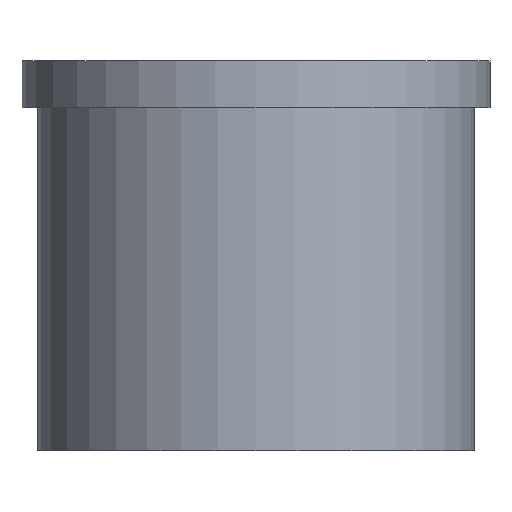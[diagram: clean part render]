
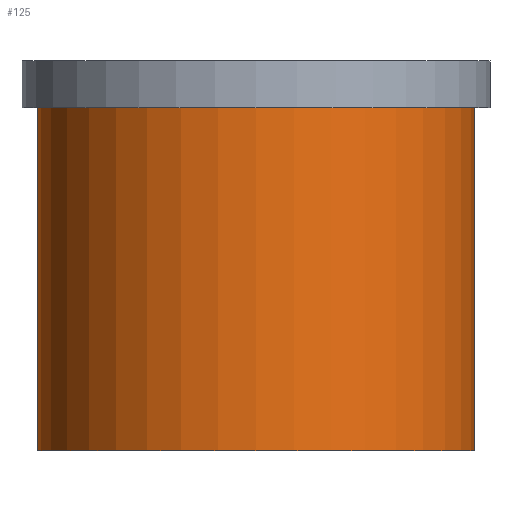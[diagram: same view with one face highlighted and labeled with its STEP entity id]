
A CAD part, left-side view. The second image highlights one B-rep face of the part: STEP entity #125.
In plain terms, the highlighted cylindrical face has radius 14 mm (diameter 28 mm), a partial arc.
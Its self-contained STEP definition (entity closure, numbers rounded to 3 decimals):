
#99=CYLINDRICAL_SURFACE('',#243,14.);
#105=FACE_OUTER_BOUND('',#145,.T.);
#111=LINE('',#324,#117);
#112=LINE('',#328,#118);
#117=VECTOR('',#279,1.);
#118=VECTOR('',#282,1.);
#125=ADVANCED_FACE('',(#105),#99,.T.);
#145=EDGE_LOOP('',(#167,#168,#169,#170));
#167=ORIENTED_EDGE('',*,*,#209,.T.);
#168=ORIENTED_EDGE('',*,*,#210,.F.);
#169=ORIENTED_EDGE('',*,*,#211,.F.);
#170=ORIENTED_EDGE('',*,*,#207,.T.);
#193=VERTEX_POINT('',#320);
#194=VERTEX_POINT('',#321);
#195=VERTEX_POINT('',#325);
#196=VERTEX_POINT('',#327);
#207=EDGE_CURVE('',#193,#194,#223,.T.);
#209=EDGE_CURVE('',#194,#195,#111,.T.);
#210=EDGE_CURVE('',#196,#195,#225,.T.);
#211=EDGE_CURVE('',#193,#196,#112,.T.);
#223=CIRCLE('',#239,14.);
#225=CIRCLE('',#242,14.);
#239=AXIS2_PLACEMENT_3D('',#319,#273,#274);
#242=AXIS2_PLACEMENT_3D('',#326,#280,#281);
#243=AXIS2_PLACEMENT_3D('',#329,#283,#284);
#273=DIRECTION('',(0.,0.,-1.));
#274=DIRECTION('',(1.,0.,0.));
#279=DIRECTION('',(0.,0.,-1.));
#280=DIRECTION('',(0.,0.,-1.));
#281=DIRECTION('',(1.,0.,0.));
#282=DIRECTION('',(0.,0.,-1.));
#283=DIRECTION('',(0.,0.,-1.));
#284=DIRECTION('',(-1.,0.,0.));
#319=CARTESIAN_POINT('',(0.,0.,0.));
#320=CARTESIAN_POINT('',(0.,-14.,0.));
#321=CARTESIAN_POINT('',(0.,14.,0.));
#324=CARTESIAN_POINT('',(0.,14.,-22.));
#325=CARTESIAN_POINT('',(0.,14.,-22.));
#326=CARTESIAN_POINT('',(0.,0.,-22.));
#327=CARTESIAN_POINT('',(0.,-14.,-22.));
#328=CARTESIAN_POINT('',(0.,-14.,-22.));
#329=CARTESIAN_POINT('',(0.,0.,0.));
